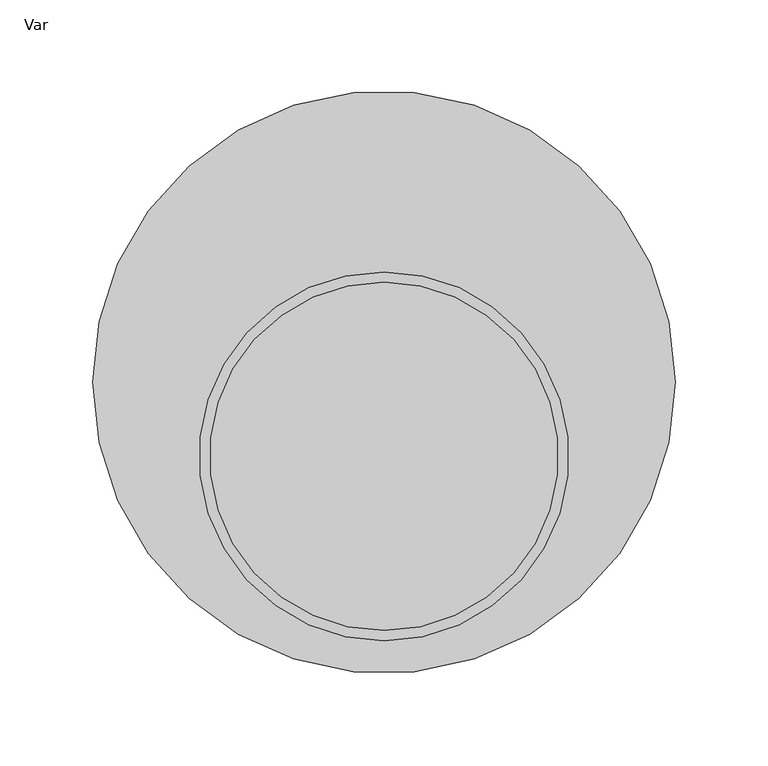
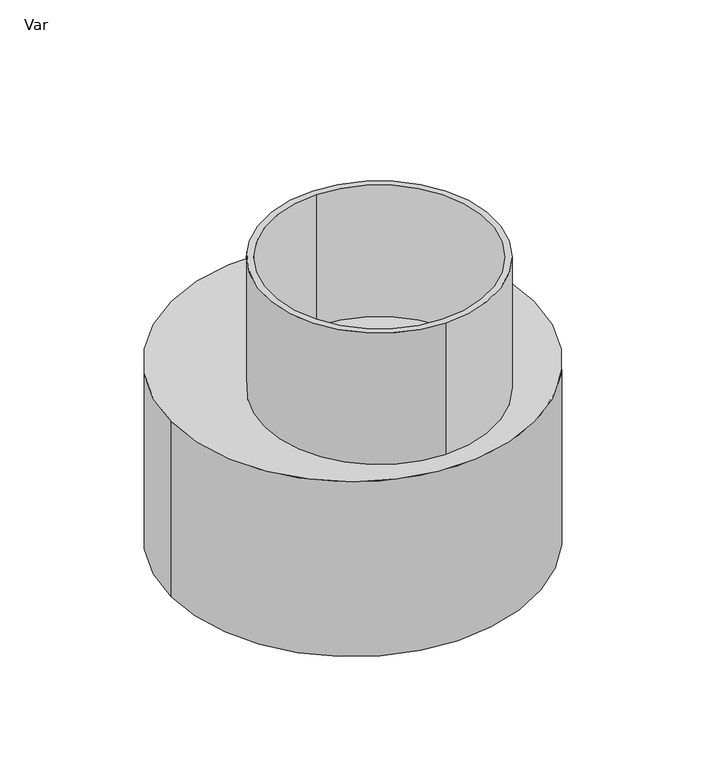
"""IFC4 building model written with IfcOpenShell, lengths in millimetres: pipe fitting geometry, PlastigamaWavin_Unionesdetubería_Aquacell400_AdaptadorDN160-200-315 : Var."""

from ifc_helpers import new_model, si_unit, point, frame_2d, origin, origin_with_axes, origin_2d, place, context, project, spatial, circle_curve, trimmed, segment, composite_curve, outline, extrude, source, transform, mapped, element, save


def var_8d4eb38c(model_context):
    return source(origin(), model_context, "Body", "SweptSolid", [
        extrude(outline(composite_curve([segment(trimmed(circle_curve(frame_2d((0.0, -40.0)), 99.5), [point((0.0, 59.5))], [point((0.0, -139.5))], False, "CARTESIAN"), True, "CONTINUOUS"), segment(trimmed(circle_curve(frame_2d((0.0, -40.0)), 99.5), [point((0.0, -139.5))], [point((0.0, 59.5))], False, "CARTESIAN"), True, "CONTINUOUS")], self_intersect=False), holes=[composite_curve([segment(trimmed(circle_curve(frame_2d((0.0, -40.0)), 94.0), [point((0.0, 54.0))], [point((0.0, -134.0))], True, "CARTESIAN"), True, "CONTINUOUS"), segment(trimmed(circle_curve(frame_2d((0.0, -40.0)), 94.0), [point((0.0, -134.0))], [point((0.0, 54.0))], True, "CARTESIAN"), True, "CONTINUOUS")], self_intersect=False)]), origin_with_axes(), (0.0, 0.0, 1.0), 280.0),
        extrude(outline(composite_curve([segment(trimmed(circle_curve(origin_2d(), 157.0), [point((-157.0, 0.0))], [point((157.0, 0.0))], False, "CARTESIAN"), True, "CONTINUOUS"), segment(trimmed(circle_curve(origin_2d(), 157.0), [point((157.0, 0.0))], [point((-157.0, 0.0))], False, "CARTESIAN"), True, "CONTINUOUS")], self_intersect=False)), origin_with_axes(), (0.0, 0.0, 1.0), 160.0),
    ])


if __name__ == "__main__":
    model = new_model("IFC4")
    model_context = context("Model", 3, world=origin())
    ifc_project = project(units=[si_unit("LENGTHUNIT", "METRE", prefix="MILLI")], contexts=[model_context])
    site = spatial("IfcSite", under=ifc_project)
    building = spatial("IfcBuilding", under=site)
    placement = place(None, origin())
    var_shape = var_8d4eb38c(model_context)
    element("IfcPipeFitting", 1, ObjectType="PlastigamaWavin_Unionesdetubería_Aquacell400_AdaptadorDN160-200-315 : Var", at=placement, inside=building, context=model_context, shape_type="MappedRepresentation", body=[
        mapped(var_shape, transform((0.0, 0.0, 0.0), x_axis=(1.0, 0.0, 0.0), y_axis=(0.0, 1.0, 0.0), z_axis=(0.0, 0.0, 1.0))),
    ])
    save(model, "model.ifc")
